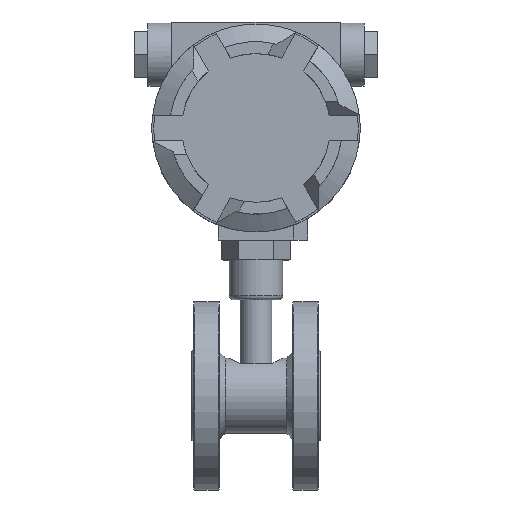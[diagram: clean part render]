
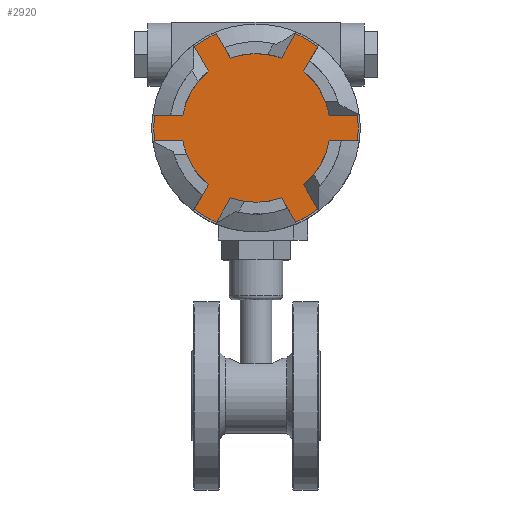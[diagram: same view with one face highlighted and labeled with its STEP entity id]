
A CAD part, top view. The second image highlights one B-rep face of the part: STEP entity #2920.
In plain terms, the highlighted planar face has unit normal (0, 0, 1).
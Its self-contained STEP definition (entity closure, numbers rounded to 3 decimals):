
#2632=CIRCLE('',#26212,37.5);
#2642=CIRCLE('',#26229,37.5);
#2645=CIRCLE('',#26237,51.5);
#2646=CIRCLE('',#26240,37.5);
#2649=CIRCLE('',#26248,51.5);
#2655=CIRCLE('',#26261,51.5);
#2656=CIRCLE('',#26264,37.5);
#2659=CIRCLE('',#26272,51.5);
#2660=CIRCLE('',#26275,37.5);
#2663=CIRCLE('',#26283,51.5);
#2664=CIRCLE('',#26286,37.5);
#2665=CIRCLE('',#26288,51.5);
#2920=ADVANCED_FACE('',(#4961),#4202,.T.);
#4202=PLANE('',#26289);
#4961=FACE_OUTER_BOUND('',#6321,.T.);
#6321=EDGE_LOOP('',(#8983,#8984,#8985,#8986,#8987,#8988,#8989,#8990,#8991,
#8992,#8993,#8994,#8995,#8996,#8997,#8998,#8999,#9000,#9001,#9002,#9003,
#9004,#9005,#9006));
#8983=ORIENTED_EDGE('',*,*,#18233,.T.);
#8984=ORIENTED_EDGE('',*,*,#18231,.T.);
#8985=ORIENTED_EDGE('',*,*,#18223,.F.);
#8986=ORIENTED_EDGE('',*,*,#18221,.T.);
#8987=ORIENTED_EDGE('',*,*,#18218,.T.);
#8988=ORIENTED_EDGE('',*,*,#18216,.T.);
#8989=ORIENTED_EDGE('',*,*,#18208,.F.);
#8990=ORIENTED_EDGE('',*,*,#18206,.T.);
#8991=ORIENTED_EDGE('',*,*,#18203,.F.);
#8992=ORIENTED_EDGE('',*,*,#18201,.T.);
#8993=ORIENTED_EDGE('',*,*,#18130,.F.);
#8994=ORIENTED_EDGE('',*,*,#18136,.T.);
#8995=ORIENTED_EDGE('',*,*,#18187,.T.);
#8996=ORIENTED_EDGE('',*,*,#18185,.T.);
#8997=ORIENTED_EDGE('',*,*,#18177,.T.);
#8998=ORIENTED_EDGE('',*,*,#18175,.T.);
#8999=ORIENTED_EDGE('',*,*,#18172,.T.);
#9000=ORIENTED_EDGE('',*,*,#18170,.T.);
#9001=ORIENTED_EDGE('',*,*,#18162,.F.);
#9002=ORIENTED_EDGE('',*,*,#18159,.T.);
#9003=ORIENTED_EDGE('',*,*,#18237,.F.);
#9004=ORIENTED_EDGE('',*,*,#18238,.T.);
#9005=ORIENTED_EDGE('',*,*,#18098,.T.);
#9006=ORIENTED_EDGE('',*,*,#18236,.T.);
#15572=VERTEX_POINT('',#34507);
#15575=VERTEX_POINT('',#34515);
#15599=VERTEX_POINT('',#34608);
#15600=VERTEX_POINT('',#34609);
#15605=VERTEX_POINT('',#34627);
#15623=VERTEX_POINT('',#34693);
#15624=VERTEX_POINT('',#34694);
#15625=VERTEX_POINT('',#34699);
#15630=VERTEX_POINT('',#34715);
#15631=VERTEX_POINT('',#34719);
#15632=VERTEX_POINT('',#34724);
#15633=VERTEX_POINT('',#34728);
#15638=VERTEX_POINT('',#34744);
#15646=VERTEX_POINT('',#34778);
#15647=VERTEX_POINT('',#34782);
#15648=VERTEX_POINT('',#34787);
#15649=VERTEX_POINT('',#34791);
#15654=VERTEX_POINT('',#34807);
#15655=VERTEX_POINT('',#34811);
#15656=VERTEX_POINT('',#34816);
#15657=VERTEX_POINT('',#34820);
#15662=VERTEX_POINT('',#34836);
#15663=VERTEX_POINT('',#34840);
#15664=VERTEX_POINT('',#34847);
#18098=EDGE_CURVE('',#15572,#15575,#21355,.T.);
#18130=EDGE_CURVE('',#15599,#15600,#21365,.T.);
#18136=EDGE_CURVE('',#15599,#15605,#2632,.T.);
#18159=EDGE_CURVE('',#15623,#15624,#2642,.T.);
#18162=EDGE_CURVE('',#15623,#15625,#21376,.T.);
#18170=EDGE_CURVE('',#15630,#15625,#2645,.T.);
#18172=EDGE_CURVE('',#15631,#15630,#21383,.T.);
#18175=EDGE_CURVE('',#15632,#15631,#2646,.T.);
#18177=EDGE_CURVE('',#15633,#15632,#21386,.T.);
#18185=EDGE_CURVE('',#15638,#15633,#2649,.T.);
#18187=EDGE_CURVE('',#15605,#15638,#21393,.T.);
#18201=EDGE_CURVE('',#15646,#15600,#2655,.T.);
#18203=EDGE_CURVE('',#15646,#15647,#21402,.T.);
#18206=EDGE_CURVE('',#15648,#15647,#2656,.T.);
#18208=EDGE_CURVE('',#15648,#15649,#21405,.T.);
#18216=EDGE_CURVE('',#15654,#15649,#2659,.T.);
#18218=EDGE_CURVE('',#15655,#15654,#21412,.T.);
#18221=EDGE_CURVE('',#15656,#15655,#2660,.T.);
#18223=EDGE_CURVE('',#15656,#15657,#21415,.T.);
#18231=EDGE_CURVE('',#15662,#15657,#2663,.T.);
#18233=EDGE_CURVE('',#15663,#15662,#21422,.T.);
#18236=EDGE_CURVE('',#15575,#15663,#2664,.T.);
#18237=EDGE_CURVE('',#15664,#15624,#21425,.T.);
#18238=EDGE_CURVE('',#15664,#15572,#2665,.T.);
#21355=LINE('',#34514,#23672);
#21365=LINE('',#34607,#23682);
#21376=LINE('',#34698,#23693);
#21383=LINE('',#34718,#23700);
#21386=LINE('',#34727,#23703);
#21393=LINE('',#34747,#23710);
#21402=LINE('',#34781,#23719);
#21405=LINE('',#34790,#23722);
#21412=LINE('',#34810,#23729);
#21415=LINE('',#34819,#23732);
#21422=LINE('',#34839,#23739);
#21425=LINE('',#34846,#23742);
#23672=VECTOR('',#28040,1.);
#23682=VECTOR('',#28096,1.);
#23693=VECTOR('',#28151,1.);
#23700=VECTOR('',#28172,1.);
#23703=VECTOR('',#28183,1.);
#23710=VECTOR('',#28204,1.);
#23719=VECTOR('',#28239,1.);
#23722=VECTOR('',#28250,1.);
#23729=VECTOR('',#28271,1.);
#23732=VECTOR('',#28282,1.);
#23739=VECTOR('',#28303,1.);
#23742=VECTOR('',#28312,1.);
#26212=AXIS2_PLACEMENT_3D('',#34626,#28103,#28104);
#26229=AXIS2_PLACEMENT_3D('',#34692,#28144,#28145);
#26237=AXIS2_PLACEMENT_3D('',#34714,#28167,#28168);
#26240=AXIS2_PLACEMENT_3D('',#34723,#28177,#28178);
#26248=AXIS2_PLACEMENT_3D('',#34743,#28199,#28200);
#26261=AXIS2_PLACEMENT_3D('',#34777,#28234,#28235);
#26264=AXIS2_PLACEMENT_3D('',#34786,#28244,#28245);
#26272=AXIS2_PLACEMENT_3D('',#34806,#28266,#28267);
#26275=AXIS2_PLACEMENT_3D('',#34815,#28276,#28277);
#26283=AXIS2_PLACEMENT_3D('',#34835,#28298,#28299);
#26286=AXIS2_PLACEMENT_3D('',#34844,#28308,#28309);
#26288=AXIS2_PLACEMENT_3D('',#34848,#28313,#28314);
#26289=AXIS2_PLACEMENT_3D('',#34849,#28315,#28316);
#28040=DIRECTION('',(1.,0.,0.));
#28096=DIRECTION('',(1.,0.,0.));
#28103=DIRECTION('',(0.,0.,1.));
#28104=DIRECTION('',(0.985,0.173,0.));
#28144=DIRECTION('',(0.,0.,1.));
#28145=DIRECTION('',(-0.643,0.766,0.));
#28151=DIRECTION('',(-0.5,0.866,0.));
#28167=DIRECTION('',(0.,0.,1.));
#28168=DIRECTION('',(-0.387,0.922,0.));
#28172=DIRECTION('',(-0.5,0.866,0.));
#28177=DIRECTION('',(0.,0.,1.));
#28178=DIRECTION('',(0.342,0.94,0.));
#28183=DIRECTION('',(-0.5,-0.866,0.));
#28199=DIRECTION('',(0.,0.,1.));
#28200=DIRECTION('',(0.605,0.796,0.));
#28204=DIRECTION('',(0.5,0.866,0.));
#28234=DIRECTION('',(0.,0.,1.));
#28235=DIRECTION('',(0.992,-0.126,0.));
#28239=DIRECTION('',(-1.,0.,0.));
#28244=DIRECTION('',(0.,0.,1.));
#28245=DIRECTION('',(0.643,-0.766,0.));
#28250=DIRECTION('',(0.5,-0.866,0.));
#28266=DIRECTION('',(0.,0.,1.));
#28267=DIRECTION('',(0.387,-0.922,0.));
#28271=DIRECTION('',(0.5,-0.866,0.));
#28276=DIRECTION('',(0.,0.,1.));
#28277=DIRECTION('',(-0.342,-0.94,0.));
#28282=DIRECTION('',(-0.5,-0.866,0.));
#28298=DIRECTION('',(0.,0.,1.));
#28299=DIRECTION('',(-0.605,-0.796,0.));
#28303=DIRECTION('',(-0.5,-0.866,0.));
#28308=DIRECTION('',(0.,0.,1.));
#28309=DIRECTION('',(-0.985,-0.173,0.));
#28312=DIRECTION('',(1.,0.,0.));
#28313=DIRECTION('',(0.,0.,1.));
#28314=DIRECTION('',(-0.992,0.126,0.));
#28315=DIRECTION('',(0.,0.,1.));
#28316=DIRECTION('',(-0.707,0.707,0.));
#34507=CARTESIAN_POINT('',(-51.088,120.,50.5));
#34514=CARTESIAN_POINT('',(-51.088,120.,50.5));
#34515=CARTESIAN_POINT('',(-36.932,120.,50.5));
#34607=CARTESIAN_POINT('',(36.932,133.,50.5));
#34608=CARTESIAN_POINT('',(36.932,133.,50.5));
#34609=CARTESIAN_POINT('',(51.088,133.,50.5));
#34626=CARTESIAN_POINT('',(0.,126.5,50.5));
#34627=CARTESIAN_POINT('',(24.095,155.234,50.5));
#34692=CARTESIAN_POINT('',(0.,126.5,50.5));
#34693=CARTESIAN_POINT('',(-24.095,155.234,50.5));
#34694=CARTESIAN_POINT('',(-36.932,133.,50.5));
#34698=CARTESIAN_POINT('',(-24.095,155.234,50.5));
#34699=CARTESIAN_POINT('',(-31.173,167.494,50.5));
#34714=CARTESIAN_POINT('',(0.,126.5,50.5));
#34715=CARTESIAN_POINT('',(-19.915,173.994,50.5));
#34718=CARTESIAN_POINT('',(-12.837,161.734,50.5));
#34719=CARTESIAN_POINT('',(-12.837,161.734,50.5));
#34723=CARTESIAN_POINT('',(0.,126.5,50.5));
#34724=CARTESIAN_POINT('',(12.837,161.734,50.5));
#34727=CARTESIAN_POINT('',(19.915,173.994,50.5));
#34728=CARTESIAN_POINT('',(19.915,173.994,50.5));
#34743=CARTESIAN_POINT('',(0.,126.5,50.5));
#34744=CARTESIAN_POINT('',(31.173,167.494,50.5));
#34747=CARTESIAN_POINT('',(24.095,155.234,50.5));
#34777=CARTESIAN_POINT('',(0.,126.5,50.5));
#34778=CARTESIAN_POINT('',(51.088,120.,50.5));
#34781=CARTESIAN_POINT('',(51.088,120.,50.5));
#34782=CARTESIAN_POINT('',(36.932,120.,50.5));
#34786=CARTESIAN_POINT('',(0.,126.5,50.5));
#34787=CARTESIAN_POINT('',(24.095,97.766,50.5));
#34790=CARTESIAN_POINT('',(24.095,97.766,50.5));
#34791=CARTESIAN_POINT('',(31.173,85.506,50.5));
#34806=CARTESIAN_POINT('',(0.,126.5,50.5));
#34807=CARTESIAN_POINT('',(19.915,79.006,50.5));
#34810=CARTESIAN_POINT('',(12.837,91.266,50.5));
#34811=CARTESIAN_POINT('',(12.837,91.266,50.5));
#34815=CARTESIAN_POINT('',(0.,126.5,50.5));
#34816=CARTESIAN_POINT('',(-12.837,91.266,50.5));
#34819=CARTESIAN_POINT('',(-12.837,91.266,50.5));
#34820=CARTESIAN_POINT('',(-19.915,79.006,50.5));
#34835=CARTESIAN_POINT('',(0.,126.5,50.5));
#34836=CARTESIAN_POINT('',(-31.173,85.506,50.5));
#34839=CARTESIAN_POINT('',(-24.095,97.766,50.5));
#34840=CARTESIAN_POINT('',(-24.095,97.766,50.5));
#34844=CARTESIAN_POINT('',(0.,126.5,50.5));
#34846=CARTESIAN_POINT('',(-51.088,133.,50.5));
#34847=CARTESIAN_POINT('',(-51.088,133.,50.5));
#34848=CARTESIAN_POINT('',(0.,126.5,50.5));
#34849=CARTESIAN_POINT('',(0.,126.5,50.5));
